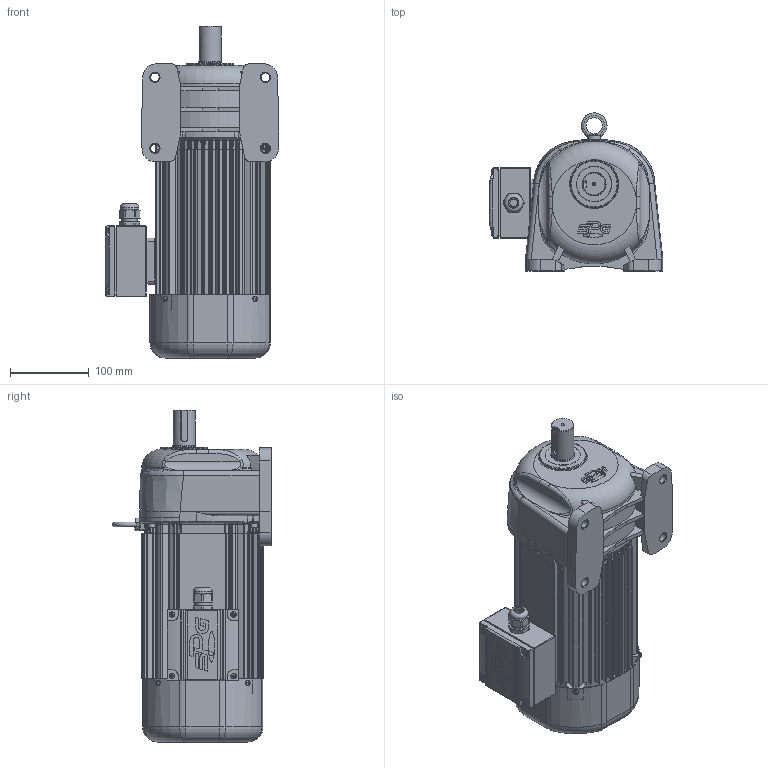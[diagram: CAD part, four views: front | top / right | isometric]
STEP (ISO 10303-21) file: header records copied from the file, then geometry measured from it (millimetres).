
FILE_DESCRIPTION(/* description */ (''),/* implementation_level */ '2;1');
FILE_NAME(/* name */ 'Z:\동력 3D 파일\PAL28-(5~25)-PC(D)075[ ]L.stp',/* time_stamp */ '2021-02-05T13:21:18+09:00',/* author */ ('jaebok'),/* organization */ (''),/* preprocessor_version */ 'ST-DEVELOPER v16.13',/* originating_system */ 'Autodesk Inventor 2018',/* authorisation */ '');
FILE_SCHEMA (('AUTOMOTIVE_DESIGN { 1 0 10303 214 3 1 1 }'));
Length unit declared in the file: millimetre
Products named in the file (1): 부품75
Bounding box: 220 x 200.28 x 420.5 mm (x, y, z)
Volume: 2507457.6 mm3; surface area: 720300.2 mm2
Topology: 2 solids, 33 shells, 3066 faces, 7991 edges, 4854 vertices
Faces by surface type: plane 1067, cylinder 883, bspline 690, torus 240, cone 120, sphere 66
Full cylindrical faces by diameter (mm): 2 x1, 3.25 x1, 3.6 x4, 4 x22, 4.2 x4, 4.917 x4, 5 x19, 5.5 x4, 6 x1, 6.647 x1, 7 x13, 8 x9, 8.5 x4, 10 x1, 11 x4, 12.5 x1, 15 x1, 19 x1, 20 x2, 20.6 x1, 21 x2, 23.6 x1, 25 x1, 28 x2, 29.6 x1, 30 x1, 32 x1, 35 x2, 36 x1, 37 x1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
Entity records: 116363 total; most frequent: CARTESIAN_POINT 41812, ORIENTED_EDGE 15030, DIRECTION 14931, EDGE_CURVE 7504, AXIS2_PLACEMENT_3D 6059, VERTEX_POINT 4766, EDGE_LOOP 3454, FACE_OUTER_BOUND 3066
